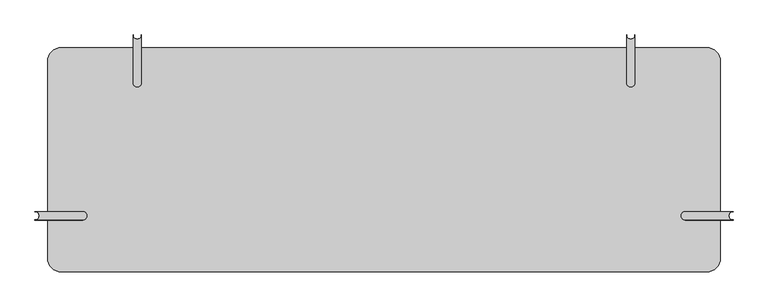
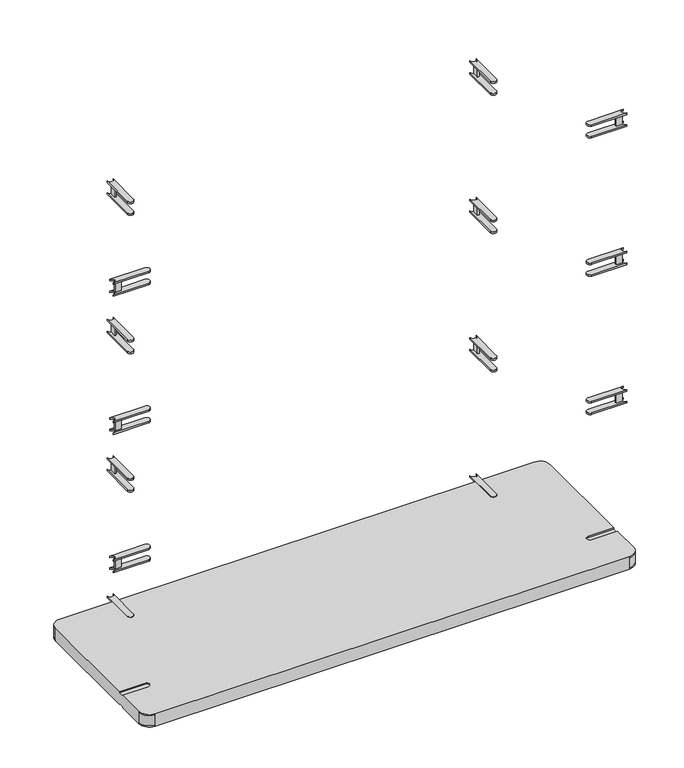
"""IFC4 building model written with IfcOpenShell, lengths in millimetres: furniture geometry, Shelving unit_Friendly : Shelving unit_Friendly."""

from ifc_helpers import new_model, si_unit, point, frame, frame_2d, origin, place, context, project, spatial, polyline, circle_curve, trimmed, segment, composite_curve, outline, extrude, source, transform, mapped, element, save
from ifc_brep_helpers import plane_surface, cylinder_surface, revolved_surface, advanced_brep


def furniture_0cf76a5a(model_context):
    return source(origin(), model_context, "Body", "SolidModel", [
        advanced_brep(
        [(-575.0, -430.0, 492.75), (-600.0, -405.0, 492.75), (-600.0, -337.5, 492.75), (-537.5, -337.5, 492.75), (-537.5, -322.5, 492.75), (-600.0, -322.5, 492.75), (-600.0, -55.0, 492.75), (-575.0, -30.0, 492.75), (-447.5, -30.0, 492.75), (-447.5, -92.5, 492.75), (-432.5, -92.5, 492.75), (-432.5, -30.0, 492.75), (432.5, -30.0, 492.75), (432.5, -92.5, 492.75), (447.5, -92.5, 492.75), (447.5, -30.0, 492.75), (575.0, -30.0, 492.75), (600.0, -55.0, 492.75), (600.0, -322.5, 492.75), (537.5, -322.5, 492.75), (537.5, -337.5, 492.75), (600.0, -337.5, 492.75), (600.0, -405.0, 492.75), (575.0, -430.0, 492.75), (575.0, -430.0, 495.75), (575.0, -430.0, 521.75), (575.0, -430.0, 524.75), (-575.0, -430.0, 524.75), (-575.0, -430.0, 521.75), (-575.0, -430.0, 495.75), (600.0, -405.0, 495.75), (600.0, -55.0, 495.75), (600.0, -55.0, 521.75), (600.0, -55.0, 524.75), (600.0, -322.5, 524.75), (600.0, -322.5, 521.75), (600.0, -337.5, 521.75), (600.0, -337.5, 524.75), (600.0, -405.0, 524.75), (600.0, -405.0, 521.75), (600.0, -337.5, 495.75), (600.0, -322.5, 495.75), (575.0, -30.0, 495.75), (-575.0, -30.0, 495.75), (-575.0, -30.0, 521.75), (-575.0, -30.0, 524.75), (-447.5, -30.0, 524.75), (-447.5, -30.0, 521.75), (-432.5, -30.0, 521.75), (-432.5, -30.0, 524.75), (432.5, -30.0, 524.75), (432.5, -30.0, 521.75), (447.5, -30.0, 521.75), (447.5, -30.0, 524.75), (575.0, -30.0, 524.75), (575.0, -30.0, 521.75), (447.5, -30.0, 495.75), (432.5, -30.0, 495.75), (-432.5, -30.0, 495.75), (-447.5, -30.0, 495.75), (-600.0, -55.0, 495.75), (-600.0, -405.0, 495.75), (-600.0, -405.0, 521.75), (-600.0, -405.0, 524.75), (-600.0, -337.5, 524.75), (-600.0, -337.5, 521.75), (-600.0, -322.5, 521.75), (-600.0, -322.5, 524.75), (-600.0, -55.0, 524.75), (-600.0, -55.0, 521.75), (-600.0, -322.5, 495.75), (-600.0, -337.5, 495.75), (-537.5, -322.5, 495.75), (-537.5, -337.5, 495.75), (537.5, -337.5, 495.75), (537.5, -322.5, 495.75), (447.5, -92.5, 495.75), (432.5, -92.5, 495.75), (-432.5, -92.5, 495.75), (-447.5, -92.5, 495.75), (537.5, -322.5, 521.75), (537.5, -337.5, 521.75), (-447.5, -92.5, 521.75), (-432.5, -92.5, 521.75), (432.5, -92.5, 521.75), (447.5, -92.5, 521.75), (-537.5, -337.5, 521.75), (-537.5, -322.5, 521.75), (537.5, -337.5, 524.75), (537.5, -322.5, 524.75), (447.5, -92.5, 524.75), (432.5, -92.5, 524.75), (-432.5, -92.5, 524.75), (-447.5, -92.5, 524.75), (-537.5, -322.5, 524.75), (-537.5, -337.5, 524.75)],
        [
            (0, 1, circle_curve(frame((-575.0, -405.0, 492.75), z_axis=(0.0, 0.0, -1.0), x_axis=(1.0, 0.0, 0.0)), 25.0)),
            (1, 2),
            (2, 3),
            (3, 4, circle_curve(frame((-537.5, -330.0, 492.75), z_axis=(0.0, 0.0, 1.0), x_axis=(1.0, 0.0, 0.0)), 7.5)),
            (4, 5),
            (5, 6),
            (6, 7, circle_curve(frame((-575.0, -55.0, 492.75), z_axis=(0.0, 0.0, -1.0), x_axis=(1.0, 0.0, 0.0)), 25.0)),
            (7, 8),
            (8, 9),
            (9, 10, circle_curve(frame((-440.0, -92.5, 492.75), z_axis=(0.0, 0.0, 1.0), x_axis=(1.0, 0.0, 0.0)), 7.5)),
            (10, 11),
            (11, 12),
            (12, 13),
            (13, 14, circle_curve(frame((440.0, -92.5, 492.75), z_axis=(0.0, 0.0, 1.0), x_axis=(1.0, 0.0, 0.0)), 7.5)),
            (14, 15),
            (15, 16),
            (16, 17, circle_curve(frame((575.0, -55.0, 492.75), z_axis=(0.0, 0.0, -1.0), x_axis=(1.0, 0.0, 0.0)), 25.0)),
            (17, 18),
            (18, 19),
            (19, 20, circle_curve(frame((537.5, -330.0, 492.75), z_axis=(0.0, 0.0, 1.0), x_axis=(1.0, 0.0, 0.0)), 7.5)),
            (20, 21),
            (21, 22),
            (22, 23, circle_curve(frame((575.0, -405.0, 492.75), z_axis=(0.0, 0.0, -1.0), x_axis=(1.0, 0.0, 0.0)), 25.0)),
            (23, 0),
            (23, 24),
            (24, 25),
            (25, 26),
            (26, 27),
            (27, 28),
            (28, 29),
            (29, 0),
            (22, 30),
            (30, 24, circle_curve(frame((575.0, -405.0, 495.75), z_axis=(0.0, 0.0, -1.0), x_axis=(1.0, 0.0, 0.0)), 25.0)),
            (17, 31),
            (31, 32),
            (32, 33),
            (33, 34),
            (34, 35),
            (35, 36),
            (36, 37),
            (37, 38),
            (38, 39),
            (39, 30),
            (21, 40),
            (40, 41),
            (41, 18),
            (16, 42),
            (42, 31, circle_curve(frame((575.0, -55.0, 495.75), z_axis=(0.0, 0.0, -1.0), x_axis=(1.0, 0.0, 0.0)), 25.0)),
            (7, 43),
            (43, 44),
            (44, 45),
            (45, 46),
            (46, 47),
            (47, 48),
            (48, 49),
            (49, 50),
            (50, 51),
            (51, 52),
            (52, 53),
            (53, 54),
            (54, 55),
            (55, 42),
            (15, 56),
            (56, 57),
            (57, 12),
            (11, 58),
            (58, 59),
            (59, 8),
            (6, 60),
            (60, 43, circle_curve(frame((-575.0, -55.0, 495.75), z_axis=(0.0, 0.0, -1.0), x_axis=(1.0, 0.0, 0.0)), 25.0)),
            (1, 61),
            (61, 62),
            (62, 63),
            (63, 64),
            (64, 65),
            (65, 66),
            (66, 67),
            (67, 68),
            (68, 69),
            (69, 60),
            (5, 70),
            (70, 71),
            (71, 2),
            (29, 61, circle_curve(frame((-575.0, -405.0, 495.75), z_axis=(0.0, 0.0, -1.0), x_axis=(1.0, 0.0, 0.0)), 25.0)),
            (4, 72),
            (72, 70),
            (71, 73),
            (73, 3),
            (73, 72, circle_curve(frame((-537.5, -330.0, 495.75), z_axis=(0.0, 0.0, 1.0), x_axis=(1.0, 0.0, 0.0)), 7.5)),
            (20, 74),
            (74, 40),
            (19, 75),
            (75, 74, circle_curve(frame((537.5, -330.0, 495.75), z_axis=(0.0, 0.0, 1.0), x_axis=(1.0, 0.0, 0.0)), 7.5)),
            (41, 75),
            (14, 76),
            (76, 56),
            (13, 77),
            (77, 76, circle_curve(frame((440.0, -92.5, 495.75), z_axis=(0.0, 0.0, 1.0), x_axis=(1.0, 0.0, 0.0)), 7.5)),
            (57, 77),
            (10, 78),
            (78, 58),
            (9, 79),
            (79, 78, circle_curve(frame((-440.0, -92.5, 495.75), z_axis=(0.0, 0.0, 1.0), x_axis=(1.0, 0.0, 0.0)), 7.5)),
            (59, 79),
            (35, 80),
            (80, 81, circle_curve(frame((537.5, -330.0, 521.75), z_axis=(0.0, 0.0, 1.0), x_axis=(1.0, 0.0, 0.0)), 7.5)),
            (81, 36),
            (47, 82),
            (82, 83, circle_curve(frame((-440.0, -92.5, 521.75), z_axis=(0.0, 0.0, 1.0), x_axis=(1.0, 0.0, 0.0)), 7.5)),
            (83, 48),
            (51, 84),
            (84, 85, circle_curve(frame((440.0, -92.5, 521.75), z_axis=(0.0, 0.0, 1.0), x_axis=(1.0, 0.0, 0.0)), 7.5)),
            (85, 52),
            (65, 86),
            (86, 87, circle_curve(frame((-537.5, -330.0, 521.75), z_axis=(0.0, 0.0, 1.0), x_axis=(1.0, 0.0, 0.0)), 7.5)),
            (87, 66),
            (28, 62, circle_curve(frame((-575.0, -405.0, 521.75), z_axis=(0.0, 0.0, -1.0), x_axis=(1.0, 0.0, 0.0)), 25.0)),
            (39, 25, circle_curve(frame((575.0, -405.0, 521.75), z_axis=(0.0, 0.0, -1.0), x_axis=(1.0, 0.0, 0.0)), 25.0)),
            (55, 32, circle_curve(frame((575.0, -55.0, 521.75), z_axis=(0.0, 0.0, -1.0), x_axis=(1.0, 0.0, 0.0)), 25.0)),
            (69, 44, circle_curve(frame((-575.0, -55.0, 521.75), z_axis=(0.0, 0.0, -1.0), x_axis=(1.0, 0.0, 0.0)), 25.0)),
            (26, 38, circle_curve(frame((575.0, -405.0, 524.75), z_axis=(0.0, 0.0, 1.0), x_axis=(1.0, 0.0, 0.0)), 25.0)),
            (37, 88),
            (88, 89, circle_curve(frame((537.5, -330.0, 524.75), z_axis=(0.0, 0.0, -1.0), x_axis=(1.0, 0.0, 0.0)), 7.5)),
            (89, 34),
            (33, 54, circle_curve(frame((575.0, -55.0, 524.75), z_axis=(0.0, 0.0, 1.0), x_axis=(1.0, 0.0, 0.0)), 25.0)),
            (53, 90),
            (90, 91, circle_curve(frame((440.0, -92.5, 524.75), z_axis=(0.0, 0.0, -1.0), x_axis=(1.0, 0.0, 0.0)), 7.5)),
            (91, 50),
            (49, 92),
            (92, 93, circle_curve(frame((-440.0, -92.5, 524.75), z_axis=(0.0, 0.0, -1.0), x_axis=(1.0, 0.0, 0.0)), 7.5)),
            (93, 46),
            (45, 68, circle_curve(frame((-575.0, -55.0, 524.75), z_axis=(0.0, 0.0, 1.0), x_axis=(1.0, 0.0, 0.0)), 25.0)),
            (67, 94),
            (94, 95, circle_curve(frame((-537.5, -330.0, 524.75), z_axis=(0.0, 0.0, -1.0), x_axis=(1.0, 0.0, 0.0)), 7.5)),
            (95, 64),
            (63, 27, circle_curve(frame((-575.0, -405.0, 524.75), z_axis=(0.0, 0.0, 1.0), x_axis=(1.0, 0.0, 0.0)), 25.0)),
            (87, 94),
            (95, 86),
            (81, 88),
            (80, 89),
            (85, 90),
            (84, 91),
            (83, 92),
            (82, 93),
        ],
        [
            plane_surface(frame((1453.4151526, -430.0, 492.75), z_axis=(0.0, 0.0, -1.0), x_axis=(-1.0, 0.0, 0.0))),
            plane_surface(frame((-575.0, -430.0, 495.75), z_axis=(0.0, -1.0, 0.0), x_axis=(0.0, 0.0, -1.0))),
            cylinder_surface(frame((575.0, -405.0, 492.75), z_axis=(0.0, 0.0, 1.0), x_axis=(1.0, 0.0, 0.0)), 25.0),
            plane_surface(frame((600.0, -322.5, 495.75), z_axis=(1.0, 0.0, 0.0), x_axis=(0.0, 0.0, -1.0))),
            cylinder_surface(frame((575.0, -55.0, 492.75), z_axis=(0.0, 0.0, 1.0), x_axis=(1.0, 0.0, 0.0)), 25.0),
            plane_surface(frame((575.0, -30.0, 495.75), z_axis=(0.0, 1.0, 0.0), x_axis=(0.0, 0.0, -1.0))),
            cylinder_surface(frame((-575.0, -55.0, 492.75), z_axis=(0.0, 0.0, 1.0), x_axis=(1.0, 0.0, 0.0)), 25.0),
            plane_surface(frame((-600.0, -55.0, 495.75), z_axis=(-1.0, 0.0, 0.0), x_axis=(0.0, 0.0, -1.0))),
            cylinder_surface(frame((-575.0, -405.0, 492.75), z_axis=(0.0, 0.0, 1.0), x_axis=(1.0, 0.0, 0.0)), 25.0),
            plane_surface(frame((-600.0, -322.5, 495.75), z_axis=(0.0, -1.0, 0.0), x_axis=(0.0, 0.0, -1.0))),
            plane_surface(frame((-537.5, -337.5, 495.75), z_axis=(0.0, 1.0, 0.0), x_axis=(0.0, 0.0, -1.0))),
            revolved_surface(polyline([(-530.0, -330.0, 492.75), (-530.0, -330.0, 495.75)]), (-537.5, -330.0, 492.75), (0.0, 0.0, -1.0)),
            plane_surface(frame((600.0, -337.5, 495.75), z_axis=(0.0, 1.0, 0.0), x_axis=(0.0, 0.0, -1.0))),
            revolved_surface(polyline([(545.0, -330.0, 492.75), (545.0, -330.0, 495.75)]), (537.5, -330.0, 492.75), (0.0, 0.0, -1.0)),
            plane_surface(frame((537.5, -322.5, 495.75), z_axis=(0.0, -1.0, 0.0), x_axis=(0.0, 0.0, -1.0))),
            plane_surface(frame((447.5, -30.0, 495.75), z_axis=(-1.0, 0.0, 0.0), x_axis=(0.0, 0.0, -1.0))),
            revolved_surface(polyline([(447.5, -92.5, 492.75), (447.5, -92.5, 495.75)]), (440.0, -92.5, 492.75), (0.0, 0.0, -1.0)),
            plane_surface(frame((432.5, -92.5, 495.75), z_axis=(1.0, 0.0, 0.0), x_axis=(0.0, 0.0, -1.0))),
            plane_surface(frame((-432.5, -30.0, 495.75), z_axis=(-1.0, 0.0, 0.0), x_axis=(0.0, 0.0, -1.0))),
            revolved_surface(polyline([(-432.5, -92.5, 492.75), (-432.5, -92.5, 495.75)]), (-440.0, -92.5, 492.75), (0.0, 0.0, -1.0)),
            plane_surface(frame((-447.5, -92.5, 495.75), z_axis=(1.0, 0.0, 0.0), x_axis=(0.0, 0.0, -1.0))),
            plane_surface(frame((-550.0, -405.0, 521.75), z_axis=(0.0, 0.0, 1.0), x_axis=(0.0, 1.0, 0.0))),
            plane_surface(frame((-550.0, -405.0, 495.75), z_axis=(0.0, 0.0, -1.0), x_axis=(0.0, -1.0, 0.0))),
            cylinder_surface(frame((-575.0, -405.0, 495.75), z_axis=(0.0, 0.0, 1.0), x_axis=(1.0, 0.0, 0.0)), 25.0),
            cylinder_surface(frame((575.0, -405.0, 495.75), z_axis=(0.0, 0.0, 1.0), x_axis=(1.0, 0.0, 0.0)), 25.0),
            cylinder_surface(frame((575.0, -55.0, 495.75), z_axis=(0.0, 0.0, 1.0), x_axis=(1.0, 0.0, 0.0)), 25.0),
            cylinder_surface(frame((-575.0, -55.0, 495.75), z_axis=(0.0, 0.0, 1.0), x_axis=(1.0, 0.0, 0.0)), 25.0),
            plane_surface(frame((1453.4151526, -430.0, 524.75), z_axis=(0.0, 0.0, 1.0), x_axis=(1.0, 0.0, 0.0))),
            cylinder_surface(frame((575.0, -405.0, 521.75), z_axis=(0.0, 0.0, 1.0), x_axis=(1.0, 0.0, 0.0)), 25.0),
            cylinder_surface(frame((575.0, -55.0, 521.75), z_axis=(0.0, 0.0, 1.0), x_axis=(1.0, 0.0, 0.0)), 25.0),
            cylinder_surface(frame((-575.0, -55.0, 521.75), z_axis=(0.0, 0.0, 1.0), x_axis=(1.0, 0.0, 0.0)), 25.0),
            cylinder_surface(frame((-575.0, -405.0, 521.75), z_axis=(0.0, 0.0, 1.0), x_axis=(1.0, 0.0, 0.0)), 25.0),
            plane_surface(frame((-600.0, -322.5, 524.75), z_axis=(0.0, -1.0, 0.0), x_axis=(0.0, 0.0, -1.0))),
            plane_surface(frame((-537.5, -337.5, 524.75), z_axis=(0.0, 1.0, 0.0), x_axis=(0.0, 0.0, -1.0))),
            revolved_surface(polyline([(-530.0, -330.0, 521.75), (-530.0, -330.0, 524.75)]), (-537.5, -330.0, 521.75), (0.0, 0.0, -1.0)),
            plane_surface(frame((600.0, -337.5, 524.75), z_axis=(0.0, 1.0, 0.0), x_axis=(0.0, 0.0, -1.0))),
            revolved_surface(polyline([(545.0, -330.0, 521.75), (545.0, -330.0, 524.75)]), (537.5, -330.0, 521.75), (0.0, 0.0, -1.0)),
            plane_surface(frame((537.5, -322.5, 524.75), z_axis=(0.0, -1.0, 0.0), x_axis=(0.0, 0.0, -1.0))),
            plane_surface(frame((447.5, -30.0, 524.75), z_axis=(-1.0, 0.0, 0.0), x_axis=(0.0, 0.0, -1.0))),
            revolved_surface(polyline([(447.5, -92.5, 521.75), (447.5, -92.5, 524.75)]), (440.0, -92.5, 521.75), (0.0, 0.0, -1.0)),
            plane_surface(frame((432.5, -92.5, 524.75), z_axis=(1.0, 0.0, 0.0), x_axis=(0.0, 0.0, -1.0))),
            plane_surface(frame((-432.5, -30.0, 524.75), z_axis=(-1.0, 0.0, 0.0), x_axis=(0.0, 0.0, -1.0))),
            revolved_surface(polyline([(-432.5, -92.5, 521.75), (-432.5, -92.5, 524.75)]), (-440.0, -92.5, 521.75), (0.0, 0.0, -1.0)),
            plane_surface(frame((-447.5, -92.5, 524.75), z_axis=(1.0, 0.0, 0.0), x_axis=(0.0, 0.0, -1.0))),
        ],
        [
            (0, [[1, 2, 3, 4, 5, 6, 7, 8, 9, 10, 11, 12, 13, 14, 15, 16, 17, 18, 19, 20, 21, 22, 23, 24]]),
            (1, [[-24, 25, 26, 27, 28, 29, 30, 31]]),
            (2, [[-23, 32, 33, -25]]),
            (3, [[-18, 34, 35, 36, 37, 38, 39, 40, 41, 42, 43, -32, -22, 44, 45, 46]]),
            (4, [[-17, 47, 48, -34]]),
            (5, [[-8, 49, 50, 51, 52, 53, 54, 55, 56, 57, 58, 59, 60, 61, 62, -47, -16, 63, 64, 65, -12, 66, 67, 68]]),
            (6, [[-7, 69, 70, -49]]),
            (7, [[-2, 71, 72, 73, 74, 75, 76, 77, 78, 79, 80, -69, -6, 81, 82, 83]]),
            (8, [[-1, -31, 84, -71]]),
            (9, [[-5, 85, 86, -81]]),
            (10, [[-3, -83, 87, 88]]),
            (11, [[-4, -88, 89, -85]]),
            (12, [[-21, 90, 91, -44]]),
            (13, [[-20, 92, 93, -90]]),
            (14, [[-19, -46, 94, -92]]),
            (15, [[-15, 95, 96, -63]]),
            (16, [[-14, 97, 98, -95]]),
            (17, [[-13, -65, 99, -97]]),
            (18, [[-11, 100, 101, -66]]),
            (19, [[-10, 102, 103, -100]]),
            (20, [[-9, -68, 104, -102]]),
            (21, [[-39, 105, 106, 107]]),
            (21, [[-54, 108, 109, 110]]),
            (21, [[-58, 111, 112, 113]]),
            (21, [[-76, 114, 115, 116]]),
            (22, [[-45, -91, -93, -94]]),
            (22, [[-64, -96, -98, -99]]),
            (22, [[-67, -101, -103, -104]]),
            (22, [[-82, -86, -89, -87]]),
            (23, [[-72, -84, -30, 117]]),
            (24, [[-26, -33, -43, 118]]),
            (25, [[-35, -48, -62, 119]]),
            (26, [[-50, -70, -80, 120]]),
            (27, [[-28, 121, -41, 122, 123, 124, -37, 125, -60, 126, 127, 128, -56, 129, 130, 131, -52, 132, -78, 133, 134, 135, -74, 136]]),
            (28, [[-121, -27, -118, -42]]),
            (29, [[-125, -36, -119, -61]]),
            (30, [[-132, -51, -120, -79]]),
            (31, [[-136, -73, -117, -29]]),
            (32, [[-133, -77, -116, 137]]),
            (33, [[-135, 138, -114, -75]]),
            (34, [[-134, -137, -115, -138]]),
            (35, [[-122, -40, -107, 139]]),
            (36, [[-123, -139, -106, 140]]),
            (37, [[-124, -140, -105, -38]]),
            (38, [[-126, -59, -113, 141]]),
            (39, [[-127, -141, -112, 142]]),
            (40, [[-128, -142, -111, -57]]),
            (41, [[-129, -55, -110, 143]]),
            (42, [[-130, -143, -109, 144]]),
            (43, [[-131, -144, -108, -53]]),
        ],
    ),
        extrude(outline(composite_curve([segment(trimmed(circle_curve(frame_2d((440.0, -7.5)), 7.5), [point((438.0, -14.7284161))], [point((442.0, -14.7284161))], True, "CARTESIAN"), True, "CONTINUOUS"), segment(polyline([(442.0, -14.7284161), (442.0, -30.0), (438.0, -30.0), (438.0, -14.7284161)]), True, "CONTINUOUS")], self_intersect=False)), frame((0.0, 0.0, 1560.0), z_axis=(0.0, 0.0, 1.0), x_axis=(1.0, 0.0, 0.0)), (0.0, 0.0, 1.0), 26.0),
        extrude(outline(composite_curve([segment(polyline([(432.5, -92.5), (432.5, -7.5)]), True, "CONTINUOUS"), segment(trimmed(circle_curve(frame_2d((440.0, -7.5)), 7.5), [point((432.5, -7.5))], [point((447.5, -7.5))], True, "CARTESIAN"), True, "CONTINUOUS"), segment(polyline([(447.5, -7.5), (447.5, -92.5)]), True, "CONTINUOUS"), segment(trimmed(circle_curve(frame_2d((440.0, -92.5)), 7.5), [point((447.5, -92.5))], [point((432.5, -92.5))], False, "CARTESIAN"), True, "CONTINUOUS")], self_intersect=False)), frame((0.0, 0.0, 1556.0), z_axis=(0.0, 0.0, 1.0), x_axis=(1.0, 0.0, 0.0)), (0.0, 0.0, 1.0), 4.0),
        advanced_brep(
        [(432.5, -92.5, 1590.0), (447.5, -92.5, 1590.0), (447.5, -7.5, 1590.0), (432.5, -7.5, 1590.0), (432.5, -92.5, 1586.0), (432.5, -7.5, 1586.0), (447.5, -7.5, 1586.0), (447.5, -92.5, 1586.0)],
        [
            (0, 1, circle_curve(frame((440.0, -92.5, 1590.0), z_axis=(0.0, 0.0, 1.0), x_axis=(0.0, -1.0, 0.0)), 7.5)),
            (1, 2),
            (2, 3, circle_curve(frame((440.0, -7.5, 1590.0), z_axis=(0.0, 0.0, -1.0), x_axis=(0.0, -1.0, 0.0)), 7.5)),
            (3, 0),
            (4, 5),
            (5, 6, circle_curve(frame((440.0, -7.5, 1586.0), z_axis=(0.0, 0.0, 1.0), x_axis=(0.0, -1.0, 0.0)), 7.5)),
            (6, 7),
            (7, 4, circle_curve(frame((440.0, -92.5, 1586.0), z_axis=(0.0, 0.0, -1.0), x_axis=(0.0, -1.0, 0.0)), 7.5)),
            (3, 5),
            (4, 0),
            (2, 6),
            (1, 7),
        ],
        [
            plane_surface(frame((440.0, -100.0, 1590.0), z_axis=(0.0, 0.0, 1.0), x_axis=(1.0, 0.0, 0.0))),
            plane_surface(frame((440.0, -100.0, 1586.0), z_axis=(0.0, 0.0, -1.0), x_axis=(-1.0, 0.0, 0.0))),
            plane_surface(frame((432.5, -7.5, 1590.0), z_axis=(-1.0, 0.0, 0.0), x_axis=(0.0, 0.0, -1.0))),
            revolved_surface(polyline([(440.0, -15.0, 1586.0), (440.0, -15.0, 1590.0)]), (440.0, -7.5, 1586.0), (0.0, 0.0, -1.0)),
            plane_surface(frame((447.5, -92.5, 1590.0), z_axis=(1.0, 0.0, 0.0), x_axis=(0.0, 0.0, -1.0))),
            cylinder_surface(frame((440.0, -92.5, 1586.0), z_axis=(0.0, 0.0, 1.0), x_axis=(0.0, -1.0, 0.0)), 7.5),
        ],
        [
            (0, [[1, 2, 3, 4]]),
            (1, [[5, 6, 7, 8]]),
            (2, [[-4, 9, -5, 10]]),
            (3, [[-3, 11, -6, -9]]),
            (4, [[-2, 12, -7, -11]]),
            (5, [[-1, -10, -8, -12]]),
        ],
    ),
        extrude(outline(composite_curve([segment(polyline([(-438.0, -14.7284161), (-438.0, -30.0), (-442.0, -30.0), (-442.0, -14.7284161)]), True, "CONTINUOUS"), segment(trimmed(circle_curve(frame_2d((-440.0, -7.5)), 7.5), [point((-442.0, -14.7284161))], [point((-438.0, -14.7284161))], True, "CARTESIAN"), True, "CONTINUOUS")], self_intersect=False)), frame((0.0, 0.0, 1560.0), z_axis=(0.0, 0.0, 1.0), x_axis=(1.0, 0.0, 0.0)), (0.0, 0.0, 1.0), 26.0),
        extrude(outline(composite_curve([segment(polyline([(-92.5, -432.5), (-7.5, -432.5)]), True, "CONTINUOUS"), segment(trimmed(circle_curve(frame_2d((-7.5, -440.0)), 7.5), [point((-7.5, -432.5))], [point((-7.5, -447.5))], True, "CARTESIAN"), True, "CONTINUOUS"), segment(polyline([(-7.5, -447.5), (-92.5, -447.5)]), True, "CONTINUOUS"), segment(trimmed(circle_curve(frame_2d((-92.5, -440.0)), 7.5), [point((-92.5, -447.5))], [point((-92.5, -432.5))], False, "CARTESIAN"), True, "CONTINUOUS")], self_intersect=False)), frame((0.0, 0.0, 1560.0), z_axis=(0.0, 0.0, -1.0), x_axis=(0.0, 1.0, 0.0)), (0.0, 0.0, 1.0), 4.0),
        advanced_brep(
        [(-432.5, -92.5, 1590.0), (-432.5, -7.5, 1590.0), (-447.5, -7.5, 1590.0), (-447.5, -92.5, 1590.0), (-432.5, -92.5, 1586.0), (-447.5, -92.5, 1586.0), (-447.5, -7.5, 1586.0), (-432.5, -7.5, 1586.0)],
        [
            (0, 1),
            (1, 2, circle_curve(frame((-440.0, -7.5, 1590.0), z_axis=(0.0, 0.0, -1.0), x_axis=(0.0, 1.0, 0.0)), 7.5)),
            (2, 3),
            (3, 0, circle_curve(frame((-440.0, -92.5, 1590.0), z_axis=(0.0, 0.0, 1.0), x_axis=(0.0, 1.0, 0.0)), 7.5)),
            (4, 5, circle_curve(frame((-440.0, -92.5, 1586.0), z_axis=(0.0, 0.0, -1.0), x_axis=(0.0, 1.0, 0.0)), 7.5)),
            (5, 6),
            (6, 7, circle_curve(frame((-440.0, -7.5, 1586.0), z_axis=(0.0, 0.0, 1.0), x_axis=(0.0, 1.0, 0.0)), 7.5)),
            (7, 4),
            (0, 4),
            (7, 1),
            (6, 2),
            (5, 3),
        ],
        [
            plane_surface(frame((-432.5, -30.0, 1590.0), z_axis=(0.0, 0.0, 1.0), x_axis=(0.0, 1.0, 0.0))),
            plane_surface(frame((-432.5, -30.0, 1586.0), z_axis=(0.0, 0.0, -1.0), x_axis=(0.0, -1.0, 0.0))),
            plane_surface(frame((-432.5, -92.5, 1590.0), z_axis=(1.0, 0.0, 0.0), x_axis=(0.0, 0.0, -1.0))),
            revolved_surface(polyline([(-440.0, 0.0, 1586.0), (-440.0, 0.0, 1590.0)]), (-440.0, -7.5, 1586.0), (0.0, 0.0, -1.0)),
            plane_surface(frame((-447.5, -7.5, 1590.0), z_axis=(-1.0, 0.0, 0.0), x_axis=(0.0, 0.0, -1.0))),
            cylinder_surface(frame((-440.0, -92.5, 1586.0), z_axis=(0.0, 0.0, 1.0), x_axis=(0.0, 1.0, 0.0)), 7.5),
        ],
        [
            (0, [[1, 2, 3, 4]]),
            (1, [[5, 6, 7, 8]]),
            (2, [[-1, 9, -8, 10]]),
            (3, [[-2, -10, -7, 11]]),
            (4, [[-3, -11, -6, 12]]),
            (5, [[-4, -12, -5, -9]]),
        ],
    ),
        extrude(outline(composite_curve([segment(trimmed(circle_curve(frame_2d((622.5, -330.0)), 7.5), [point((615.2715839, -328.0))], [point((615.2715839, -332.0))], True, "CARTESIAN"), True, "CONTINUOUS"), segment(polyline([(615.2715839, -332.0), (600.0, -332.0), (600.0, -328.0), (615.2715839, -328.0)]), True, "CONTINUOUS")], self_intersect=False)), frame((0.0, 0.0, 1560.0), z_axis=(0.0, 0.0, 1.0), x_axis=(1.0, 0.0, 0.0)), (0.0, 0.0, 1.0), 26.0),
        extrude(outline(composite_curve([segment(polyline([(537.5, -322.5), (622.5, -322.5)]), True, "CONTINUOUS"), segment(trimmed(circle_curve(frame_2d((622.5, -330.0)), 7.5), [point((622.5, -322.5))], [point((622.5, -337.5))], True, "CARTESIAN"), True, "CONTINUOUS"), segment(polyline([(622.5, -337.5), (537.5, -337.5)]), True, "CONTINUOUS"), segment(trimmed(circle_curve(frame_2d((537.5, -330.0)), 7.5), [point((537.5, -337.5))], [point((537.5, -322.5))], False, "CARTESIAN"), True, "CONTINUOUS")], self_intersect=False)), frame((0.0, 0.0, 1556.0), z_axis=(0.0, 0.0, 1.0), x_axis=(1.0, 0.0, 0.0)), (0.0, 0.0, 1.0), 4.0),
        extrude(outline(composite_curve([segment(polyline([(537.5, -322.5), (622.5, -322.5)]), True, "CONTINUOUS"), segment(trimmed(circle_curve(frame_2d((622.5, -330.0)), 7.5), [point((622.5, -322.5))], [point((622.5, -337.5))], True, "CARTESIAN"), True, "CONTINUOUS"), segment(polyline([(622.5, -337.5), (537.5, -337.5)]), True, "CONTINUOUS"), segment(trimmed(circle_curve(frame_2d((537.5, -330.0)), 7.5), [point((537.5, -337.5))], [point((537.5, -322.5))], False, "CARTESIAN"), True, "CONTINUOUS")], self_intersect=False)), frame((0.0, 0.0, 1586.0), z_axis=(0.0, 0.0, 1.0), x_axis=(1.0, 0.0, 0.0)), (0.0, 0.0, 1.0), 4.0),
        extrude(outline(composite_curve([segment(polyline([(-615.2715839, -328.0), (-600.0, -328.0), (-600.0, -332.0), (-615.2715839, -332.0)]), True, "CONTINUOUS"), segment(trimmed(circle_curve(frame_2d((-622.5, -330.0)), 7.5), [point((-615.2715839, -332.0))], [point((-615.2715839, -328.0))], True, "CARTESIAN"), True, "CONTINUOUS")], self_intersect=False)), frame((0.0, 0.0, 1560.0), z_axis=(0.0, 0.0, 1.0), x_axis=(1.0, 0.0, 0.0)), (0.0, 0.0, 1.0), 26.0),
        extrude(outline(composite_curve([segment(polyline([(-322.5, -537.5), (-322.5, -622.5)]), True, "CONTINUOUS"), segment(trimmed(circle_curve(frame_2d((-330.0, -622.5)), 7.5), [point((-322.5, -622.5))], [point((-337.5, -622.5))], True, "CARTESIAN"), True, "CONTINUOUS"), segment(polyline([(-337.5, -622.5), (-337.5, -537.5)]), True, "CONTINUOUS"), segment(trimmed(circle_curve(frame_2d((-330.0, -537.5)), 7.5), [point((-337.5, -537.5))], [point((-322.5, -537.5))], False, "CARTESIAN"), True, "CONTINUOUS")], self_intersect=False)), frame((0.0, 0.0, 1560.0), z_axis=(0.0, 0.0, -1.0), x_axis=(0.0, 1.0, 0.0)), (0.0, 0.0, 1.0), 4.0),
        extrude(outline(composite_curve([segment(polyline([(-322.5, -537.5), (-322.5, -622.5)]), True, "CONTINUOUS"), segment(trimmed(circle_curve(frame_2d((-330.0, -622.5)), 7.5), [point((-322.5, -622.5))], [point((-337.5, -622.5))], True, "CARTESIAN"), True, "CONTINUOUS"), segment(polyline([(-337.5, -622.5), (-337.5, -537.5)]), True, "CONTINUOUS"), segment(trimmed(circle_curve(frame_2d((-330.0, -537.5)), 7.5), [point((-337.5, -537.5))], [point((-322.5, -537.5))], False, "CARTESIAN"), True, "CONTINUOUS")], self_intersect=False)), frame((0.0, 0.0, 1590.0), z_axis=(0.0, 0.0, -1.0), x_axis=(0.0, 1.0, 0.0)), (0.0, 0.0, 1.0), 4.0),
        extrude(outline(composite_curve([segment(trimmed(circle_curve(frame_2d((440.0, -7.5)), 7.5), [point((438.0, -14.7284161))], [point((442.0, -14.7284161))], True, "CARTESIAN"), True, "CONTINUOUS"), segment(polyline([(442.0, -14.7284161), (442.0, -30.0), (438.0, -30.0), (438.0, -14.7284161)]), True, "CONTINUOUS")], self_intersect=False)), frame((0.0, 0.0, 1205.25), z_axis=(0.0, 0.0, 1.0), x_axis=(1.0, 0.0, 0.0)), (0.0, 0.0, 1.0), 26.0),
        extrude(outline(composite_curve([segment(polyline([(432.5, -92.5), (432.5, -7.5)]), True, "CONTINUOUS"), segment(trimmed(circle_curve(frame_2d((440.0, -7.5)), 7.5), [point((432.5, -7.5))], [point((447.5, -7.5))], True, "CARTESIAN"), True, "CONTINUOUS"), segment(polyline([(447.5, -7.5), (447.5, -92.5)]), True, "CONTINUOUS"), segment(trimmed(circle_curve(frame_2d((440.0, -92.5)), 7.5), [point((447.5, -92.5))], [point((432.5, -92.5))], False, "CARTESIAN"), True, "CONTINUOUS")], self_intersect=False)), frame((0.0, 0.0, 1201.25), z_axis=(0.0, 0.0, 1.0), x_axis=(1.0, 0.0, 0.0)), (0.0, 0.0, 1.0), 4.0),
        extrude(outline(composite_curve([segment(polyline([(432.5, -92.5), (432.5, -7.5)]), True, "CONTINUOUS"), segment(trimmed(circle_curve(frame_2d((440.0, -7.5)), 7.5), [point((432.5, -7.5))], [point((447.5, -7.5))], True, "CARTESIAN"), True, "CONTINUOUS"), segment(polyline([(447.5, -7.5), (447.5, -92.5)]), True, "CONTINUOUS"), segment(trimmed(circle_curve(frame_2d((440.0, -92.5)), 7.5), [point((447.5, -92.5))], [point((432.5, -92.5))], False, "CARTESIAN"), True, "CONTINUOUS")], self_intersect=False)), frame((0.0, 0.0, 1231.25), z_axis=(0.0, 0.0, 1.0), x_axis=(1.0, 0.0, 0.0)), (0.0, 0.0, 1.0), 4.0),
        extrude(outline(composite_curve([segment(polyline([(-438.0, -14.7284161), (-438.0, -30.0), (-442.0, -30.0), (-442.0, -14.7284161)]), True, "CONTINUOUS"), segment(trimmed(circle_curve(frame_2d((-440.0, -7.5)), 7.5), [point((-442.0, -14.7284161))], [point((-438.0, -14.7284161))], True, "CARTESIAN"), True, "CONTINUOUS")], self_intersect=False)), frame((0.0, 0.0, 1205.25), z_axis=(0.0, 0.0, 1.0), x_axis=(1.0, 0.0, 0.0)), (0.0, 0.0, 1.0), 26.0),
        extrude(outline(composite_curve([segment(polyline([(-92.5, -432.5), (-7.5, -432.5)]), True, "CONTINUOUS"), segment(trimmed(circle_curve(frame_2d((-7.5, -440.0)), 7.5), [point((-7.5, -432.5))], [point((-7.5, -447.5))], True, "CARTESIAN"), True, "CONTINUOUS"), segment(polyline([(-7.5, -447.5), (-92.5, -447.5)]), True, "CONTINUOUS"), segment(trimmed(circle_curve(frame_2d((-92.5, -440.0)), 7.5), [point((-92.5, -447.5))], [point((-92.5, -432.5))], False, "CARTESIAN"), True, "CONTINUOUS")], self_intersect=False)), frame((0.0, 0.0, 1205.25), z_axis=(0.0, 0.0, -1.0), x_axis=(0.0, 1.0, 0.0)), (0.0, 0.0, 1.0), 4.0),
        extrude(outline(composite_curve([segment(polyline([(-92.5, -432.5), (-7.5, -432.5)]), True, "CONTINUOUS"), segment(trimmed(circle_curve(frame_2d((-7.5, -440.0)), 7.5), [point((-7.5, -432.5))], [point((-7.5, -447.5))], True, "CARTESIAN"), True, "CONTINUOUS"), segment(polyline([(-7.5, -447.5), (-92.5, -447.5)]), True, "CONTINUOUS"), segment(trimmed(circle_curve(frame_2d((-92.5, -440.0)), 7.5), [point((-92.5, -447.5))], [point((-92.5, -432.5))], False, "CARTESIAN"), True, "CONTINUOUS")], self_intersect=False)), frame((0.0, 0.0, 1235.25), z_axis=(0.0, 0.0, -1.0), x_axis=(0.0, 1.0, 0.0)), (0.0, 0.0, 1.0), 4.0),
        extrude(outline(composite_curve([segment(trimmed(circle_curve(frame_2d((622.5, -330.0)), 7.5), [point((615.2715839, -328.0))], [point((615.2715839, -332.0))], True, "CARTESIAN"), True, "CONTINUOUS"), segment(polyline([(615.2715839, -332.0), (600.0, -332.0), (600.0, -328.0), (615.2715839, -328.0)]), True, "CONTINUOUS")], self_intersect=False)), frame((0.0, 0.0, 1205.25), z_axis=(0.0, 0.0, 1.0), x_axis=(1.0, 0.0, 0.0)), (0.0, 0.0, 1.0), 26.0),
        extrude(outline(composite_curve([segment(polyline([(537.5, -322.5), (622.5, -322.5)]), True, "CONTINUOUS"), segment(trimmed(circle_curve(frame_2d((622.5, -330.0)), 7.5), [point((622.5, -322.5))], [point((622.5, -337.5))], True, "CARTESIAN"), True, "CONTINUOUS"), segment(polyline([(622.5, -337.5), (537.5, -337.5)]), True, "CONTINUOUS"), segment(trimmed(circle_curve(frame_2d((537.5, -330.0)), 7.5), [point((537.5, -337.5))], [point((537.5, -322.5))], False, "CARTESIAN"), True, "CONTINUOUS")], self_intersect=False)), frame((0.0, 0.0, 1201.25), z_axis=(0.0, 0.0, 1.0), x_axis=(1.0, 0.0, 0.0)), (0.0, 0.0, 1.0), 4.0),
        extrude(outline(composite_curve([segment(polyline([(537.5, -322.5), (622.5, -322.5)]), True, "CONTINUOUS"), segment(trimmed(circle_curve(frame_2d((622.5, -330.0)), 7.5), [point((622.5, -322.5))], [point((622.5, -337.5))], True, "CARTESIAN"), True, "CONTINUOUS"), segment(polyline([(622.5, -337.5), (537.5, -337.5)]), True, "CONTINUOUS"), segment(trimmed(circle_curve(frame_2d((537.5, -330.0)), 7.5), [point((537.5, -337.5))], [point((537.5, -322.5))], False, "CARTESIAN"), True, "CONTINUOUS")], self_intersect=False)), frame((0.0, 0.0, 1231.25), z_axis=(0.0, 0.0, 1.0), x_axis=(1.0, 0.0, 0.0)), (0.0, 0.0, 1.0), 4.0),
        extrude(outline(composite_curve([segment(polyline([(-615.2715839, -328.0), (-600.0, -328.0), (-600.0, -332.0), (-615.2715839, -332.0)]), True, "CONTINUOUS"), segment(trimmed(circle_curve(frame_2d((-622.5, -330.0)), 7.5), [point((-615.2715839, -332.0))], [point((-615.2715839, -328.0))], True, "CARTESIAN"), True, "CONTINUOUS")], self_intersect=False)), frame((0.0, 0.0, 1205.25), z_axis=(0.0, 0.0, 1.0), x_axis=(1.0, 0.0, 0.0)), (0.0, 0.0, 1.0), 26.0),
        extrude(outline(composite_curve([segment(polyline([(-322.5, -537.5), (-322.5, -622.5)]), True, "CONTINUOUS"), segment(trimmed(circle_curve(frame_2d((-330.0, -622.5)), 7.5), [point((-322.5, -622.5))], [point((-337.5, -622.5))], True, "CARTESIAN"), True, "CONTINUOUS"), segment(polyline([(-337.5, -622.5), (-337.5, -537.5)]), True, "CONTINUOUS"), segment(trimmed(circle_curve(frame_2d((-330.0, -537.5)), 7.5), [point((-337.5, -537.5))], [point((-322.5, -537.5))], False, "CARTESIAN"), True, "CONTINUOUS")], self_intersect=False)), frame((0.0, 0.0, 1205.25), z_axis=(0.0, 0.0, -1.0), x_axis=(0.0, 1.0, 0.0)), (0.0, 0.0, 1.0), 4.0),
        extrude(outline(composite_curve([segment(polyline([(-322.5, -537.5), (-322.5, -622.5)]), True, "CONTINUOUS"), segment(trimmed(circle_curve(frame_2d((-330.0, -622.5)), 7.5), [point((-322.5, -622.5))], [point((-337.5, -622.5))], True, "CARTESIAN"), True, "CONTINUOUS"), segment(polyline([(-337.5, -622.5), (-337.5, -537.5)]), True, "CONTINUOUS"), segment(trimmed(circle_curve(frame_2d((-330.0, -537.5)), 7.5), [point((-337.5, -537.5))], [point((-322.5, -537.5))], False, "CARTESIAN"), True, "CONTINUOUS")], self_intersect=False)), frame((0.0, 0.0, 1235.25), z_axis=(0.0, 0.0, -1.0), x_axis=(0.0, 1.0, 0.0)), (0.0, 0.0, 1.0), 4.0),
        extrude(outline(composite_curve([segment(trimmed(circle_curve(frame_2d((440.0, -7.5)), 7.5), [point((438.0, -14.7284161))], [point((442.0, -14.7284161))], True, "CARTESIAN"), True, "CONTINUOUS"), segment(polyline([(442.0, -14.7284161), (442.0, -30.0), (438.0, -30.0), (438.0, -14.7284161)]), True, "CONTINUOUS")], self_intersect=False)), frame((0.0, 0.0, 850.5), z_axis=(0.0, 0.0, 1.0), x_axis=(1.0, 0.0, 0.0)), (0.0, 0.0, 1.0), 26.0),
        extrude(outline(composite_curve([segment(polyline([(432.5, -92.5), (432.5, -7.5)]), True, "CONTINUOUS"), segment(trimmed(circle_curve(frame_2d((440.0, -7.5)), 7.5), [point((432.5, -7.5))], [point((447.5, -7.5))], True, "CARTESIAN"), True, "CONTINUOUS"), segment(polyline([(447.5, -7.5), (447.5, -92.5)]), True, "CONTINUOUS"), segment(trimmed(circle_curve(frame_2d((440.0, -92.5)), 7.5), [point((447.5, -92.5))], [point((432.5, -92.5))], False, "CARTESIAN"), True, "CONTINUOUS")], self_intersect=False)), frame((0.0, 0.0, 846.5), z_axis=(0.0, 0.0, 1.0), x_axis=(1.0, 0.0, 0.0)), (0.0, 0.0, 1.0), 4.0),
        extrude(outline(composite_curve([segment(polyline([(432.5, -92.5), (432.5, -7.5)]), True, "CONTINUOUS"), segment(trimmed(circle_curve(frame_2d((440.0, -7.5)), 7.5), [point((432.5, -7.5))], [point((447.5, -7.5))], True, "CARTESIAN"), True, "CONTINUOUS"), segment(polyline([(447.5, -7.5), (447.5, -92.5)]), True, "CONTINUOUS"), segment(trimmed(circle_curve(frame_2d((440.0, -92.5)), 7.5), [point((447.5, -92.5))], [point((432.5, -92.5))], False, "CARTESIAN"), True, "CONTINUOUS")], self_intersect=False)), frame((0.0, 0.0, 876.5), z_axis=(0.0, 0.0, 1.0), x_axis=(1.0, 0.0, 0.0)), (0.0, 0.0, 1.0), 4.0),
        extrude(outline(composite_curve([segment(polyline([(-438.0, -14.7284161), (-438.0, -30.0), (-442.0, -30.0), (-442.0, -14.7284161)]), True, "CONTINUOUS"), segment(trimmed(circle_curve(frame_2d((-440.0, -7.5)), 7.5), [point((-442.0, -14.7284161))], [point((-438.0, -14.7284161))], True, "CARTESIAN"), True, "CONTINUOUS")], self_intersect=False)), frame((0.0, 0.0, 850.5), z_axis=(0.0, 0.0, 1.0), x_axis=(1.0, 0.0, 0.0)), (0.0, 0.0, 1.0), 26.0),
        extrude(outline(composite_curve([segment(polyline([(-92.5, -432.5), (-7.5, -432.5)]), True, "CONTINUOUS"), segment(trimmed(circle_curve(frame_2d((-7.5, -440.0)), 7.5), [point((-7.5, -432.5))], [point((-7.5, -447.5))], True, "CARTESIAN"), True, "CONTINUOUS"), segment(polyline([(-7.5, -447.5), (-92.5, -447.5)]), True, "CONTINUOUS"), segment(trimmed(circle_curve(frame_2d((-92.5, -440.0)), 7.5), [point((-92.5, -447.5))], [point((-92.5, -432.5))], False, "CARTESIAN"), True, "CONTINUOUS")], self_intersect=False)), frame((0.0, 0.0, 850.5), z_axis=(0.0, 0.0, -1.0), x_axis=(0.0, 1.0, 0.0)), (0.0, 0.0, 1.0), 4.0),
        extrude(outline(composite_curve([segment(polyline([(-92.5, -432.5), (-7.5, -432.5)]), True, "CONTINUOUS"), segment(trimmed(circle_curve(frame_2d((-7.5, -440.0)), 7.5), [point((-7.5, -432.5))], [point((-7.5, -447.5))], True, "CARTESIAN"), True, "CONTINUOUS"), segment(polyline([(-7.5, -447.5), (-92.5, -447.5)]), True, "CONTINUOUS"), segment(trimmed(circle_curve(frame_2d((-92.5, -440.0)), 7.5), [point((-92.5, -447.5))], [point((-92.5, -432.5))], False, "CARTESIAN"), True, "CONTINUOUS")], self_intersect=False)), frame((0.0, 0.0, 880.5), z_axis=(0.0, 0.0, -1.0), x_axis=(0.0, 1.0, 0.0)), (0.0, 0.0, 1.0), 4.0),
        extrude(outline(composite_curve([segment(trimmed(circle_curve(frame_2d((622.5, -330.0)), 7.5), [point((615.2715839, -328.0))], [point((615.2715839, -332.0))], True, "CARTESIAN"), True, "CONTINUOUS"), segment(polyline([(615.2715839, -332.0), (600.0, -332.0), (600.0, -328.0), (615.2715839, -328.0)]), True, "CONTINUOUS")], self_intersect=False)), frame((0.0, 0.0, 850.5), z_axis=(0.0, 0.0, 1.0), x_axis=(1.0, 0.0, 0.0)), (0.0, 0.0, 1.0), 26.0),
        extrude(outline(composite_curve([segment(polyline([(537.5, -322.5), (622.5, -322.5)]), True, "CONTINUOUS"), segment(trimmed(circle_curve(frame_2d((622.5, -330.0)), 7.5), [point((622.5, -322.5))], [point((622.5, -337.5))], True, "CARTESIAN"), True, "CONTINUOUS"), segment(polyline([(622.5, -337.5), (537.5, -337.5)]), True, "CONTINUOUS"), segment(trimmed(circle_curve(frame_2d((537.5, -330.0)), 7.5), [point((537.5, -337.5))], [point((537.5, -322.5))], False, "CARTESIAN"), True, "CONTINUOUS")], self_intersect=False)), frame((0.0, 0.0, 846.5), z_axis=(0.0, 0.0, 1.0), x_axis=(1.0, 0.0, 0.0)), (0.0, 0.0, 1.0), 4.0),
        extrude(outline(composite_curve([segment(polyline([(537.5, -322.5), (622.5, -322.5)]), True, "CONTINUOUS"), segment(trimmed(circle_curve(frame_2d((622.5, -330.0)), 7.5), [point((622.5, -322.5))], [point((622.5, -337.5))], True, "CARTESIAN"), True, "CONTINUOUS"), segment(polyline([(622.5, -337.5), (537.5, -337.5)]), True, "CONTINUOUS"), segment(trimmed(circle_curve(frame_2d((537.5, -330.0)), 7.5), [point((537.5, -337.5))], [point((537.5, -322.5))], False, "CARTESIAN"), True, "CONTINUOUS")], self_intersect=False)), frame((0.0, 0.0, 876.5), z_axis=(0.0, 0.0, 1.0), x_axis=(1.0, 0.0, 0.0)), (0.0, 0.0, 1.0), 4.0),
        extrude(outline(composite_curve([segment(polyline([(-615.2715839, -328.0), (-600.0, -328.0), (-600.0, -332.0), (-615.2715839, -332.0)]), True, "CONTINUOUS"), segment(trimmed(circle_curve(frame_2d((-622.5, -330.0)), 7.5), [point((-615.2715839, -332.0))], [point((-615.2715839, -328.0))], True, "CARTESIAN"), True, "CONTINUOUS")], self_intersect=False)), frame((0.0, 0.0, 850.5), z_axis=(0.0, 0.0, 1.0), x_axis=(1.0, 0.0, 0.0)), (0.0, 0.0, 1.0), 26.0),
        extrude(outline(composite_curve([segment(polyline([(-322.5, -537.5), (-322.5, -622.5)]), True, "CONTINUOUS"), segment(trimmed(circle_curve(frame_2d((-330.0, -622.5)), 7.5), [point((-322.5, -622.5))], [point((-337.5, -622.5))], True, "CARTESIAN"), True, "CONTINUOUS"), segment(polyline([(-337.5, -622.5), (-337.5, -537.5)]), True, "CONTINUOUS"), segment(trimmed(circle_curve(frame_2d((-330.0, -537.5)), 7.5), [point((-337.5, -537.5))], [point((-322.5, -537.5))], False, "CARTESIAN"), True, "CONTINUOUS")], self_intersect=False)), frame((0.0, 0.0, 850.5), z_axis=(0.0, 0.0, -1.0), x_axis=(0.0, 1.0, 0.0)), (0.0, 0.0, 1.0), 4.0),
        extrude(outline(composite_curve([segment(polyline([(-322.5, -537.5), (-322.5, -622.5)]), True, "CONTINUOUS"), segment(trimmed(circle_curve(frame_2d((-330.0, -622.5)), 7.5), [point((-322.5, -622.5))], [point((-337.5, -622.5))], True, "CARTESIAN"), True, "CONTINUOUS"), segment(polyline([(-337.5, -622.5), (-337.5, -537.5)]), True, "CONTINUOUS"), segment(trimmed(circle_curve(frame_2d((-330.0, -537.5)), 7.5), [point((-337.5, -537.5))], [point((-322.5, -537.5))], False, "CARTESIAN"), True, "CONTINUOUS")], self_intersect=False)), frame((0.0, 0.0, 880.5), z_axis=(0.0, 0.0, -1.0), x_axis=(0.0, 1.0, 0.0)), (0.0, 0.0, 1.0), 4.0),
        extrude(outline(composite_curve([segment(trimmed(circle_curve(frame_2d((440.0, -7.5)), 7.5), [point((438.0, -14.7284161))], [point((442.0, -14.7284161))], True, "CARTESIAN"), True, "CONTINUOUS"), segment(polyline([(442.0, -14.7284161), (442.0, -30.0), (438.0, -30.0), (438.0, -14.7284161)]), True, "CONTINUOUS")], self_intersect=False)), frame((0.0, 0.0, 495.75), z_axis=(0.0, 0.0, 1.0), x_axis=(1.0, 0.0, 0.0)), (0.0, 0.0, 1.0), 26.0),
        advanced_brep(
        [(432.5, -92.5, 495.75), (447.5, -92.5, 495.75), (447.5, -7.5, 495.75), (432.5, -7.5, 495.75), (432.5, -92.5, 491.75), (432.5, -7.5, 491.75), (447.5, -7.5, 491.75), (447.5, -92.5, 491.75)],
        [
            (0, 1, circle_curve(frame((440.0, -92.5, 495.75), z_axis=(0.0, 0.0, 1.0), x_axis=(0.0, 1.0, 0.0)), 7.5)),
            (1, 2),
            (2, 3, circle_curve(frame((440.0, -7.5, 495.75), z_axis=(0.0, 0.0, -1.0), x_axis=(0.0, 1.0, 0.0)), 7.5)),
            (3, 0),
            (4, 5),
            (5, 6, circle_curve(frame((440.0, -7.5, 491.75), z_axis=(0.0, 0.0, 1.0), x_axis=(0.0, 1.0, 0.0)), 7.5)),
            (6, 7),
            (7, 4, circle_curve(frame((440.0, -92.5, 491.75), z_axis=(0.0, 0.0, -1.0), x_axis=(0.0, 1.0, 0.0)), 7.5)),
            (3, 5),
            (4, 0),
            (2, 6),
            (1, 7),
        ],
        [
            plane_surface(frame((440.0, -85.0, 495.75), z_axis=(0.0, 0.0, 1.0), x_axis=(-1.0, 0.0, 0.0))),
            plane_surface(frame((440.0, -85.0, 491.75), z_axis=(0.0, 0.0, -1.0), x_axis=(1.0, 0.0, 0.0))),
            plane_surface(frame((432.5, -7.5, 495.75), z_axis=(-1.0, 0.0, 0.0), x_axis=(0.0, 0.0, -1.0))),
            revolved_surface(polyline([(440.0, 0.0, 491.75), (440.0, 0.0, 495.75)]), (440.0, -7.5, 491.75), (0.0, 0.0, -1.0)),
            plane_surface(frame((447.5, -92.5, 495.75), z_axis=(1.0, 0.0, 0.0), x_axis=(0.0, 0.0, -1.0))),
            cylinder_surface(frame((440.0, -92.5, 491.75), z_axis=(0.0, 0.0, 1.0), x_axis=(0.0, 1.0, 0.0)), 7.5),
        ],
        [
            (0, [[1, 2, 3, 4]]),
            (1, [[5, 6, 7, 8]]),
            (2, [[-4, 9, -5, 10]]),
            (3, [[-3, 11, -6, -9]]),
            (4, [[-2, 12, -7, -11]]),
            (5, [[-1, -10, -8, -12]]),
        ],
    ),
        extrude(outline(composite_curve([segment(polyline([(432.5, -92.5), (432.5, -7.5)]), True, "CONTINUOUS"), segment(trimmed(circle_curve(frame_2d((440.0, -7.5)), 7.5), [point((432.5, -7.5))], [point((447.5, -7.5))], True, "CARTESIAN"), True, "CONTINUOUS"), segment(polyline([(447.5, -7.5), (447.5, -92.5)]), True, "CONTINUOUS"), segment(trimmed(circle_curve(frame_2d((440.0, -92.5)), 7.5), [point((447.5, -92.5))], [point((432.5, -92.5))], False, "CARTESIAN"), True, "CONTINUOUS")], self_intersect=False)), frame((0.0, 0.0, 521.75), z_axis=(0.0, 0.0, 1.0), x_axis=(1.0, 0.0, 0.0)), (0.0, 0.0, 1.0), 4.0),
        extrude(outline(composite_curve([segment(polyline([(-438.0, -14.7284161), (-438.0, -30.0), (-442.0, -30.0), (-442.0, -14.7284161)]), True, "CONTINUOUS"), segment(trimmed(circle_curve(frame_2d((-440.0, -7.5)), 7.5), [point((-442.0, -14.7284161))], [point((-438.0, -14.7284161))], True, "CARTESIAN"), True, "CONTINUOUS")], self_intersect=False)), frame((0.0, 0.0, 495.75), z_axis=(0.0, 0.0, 1.0), x_axis=(1.0, 0.0, 0.0)), (0.0, 0.0, 1.0), 26.0),
        extrude(outline(composite_curve([segment(polyline([(-92.5, -432.5), (-7.5, -432.5)]), True, "CONTINUOUS"), segment(trimmed(circle_curve(frame_2d((-7.5, -440.0)), 7.5), [point((-7.5, -432.5))], [point((-7.5, -447.5))], True, "CARTESIAN"), True, "CONTINUOUS"), segment(polyline([(-7.5, -447.5), (-92.5, -447.5)]), True, "CONTINUOUS"), segment(trimmed(circle_curve(frame_2d((-92.5, -440.0)), 7.5), [point((-92.5, -447.5))], [point((-92.5, -432.5))], False, "CARTESIAN"), True, "CONTINUOUS")], self_intersect=False)), frame((0.0, 0.0, 495.75), z_axis=(0.0, 0.0, -1.0), x_axis=(0.0, 1.0, 0.0)), (0.0, 0.0, 1.0), 4.0),
        extrude(outline(composite_curve([segment(polyline([(-92.5, -432.5), (-7.5, -432.5)]), True, "CONTINUOUS"), segment(trimmed(circle_curve(frame_2d((-7.5, -440.0)), 7.5), [point((-7.5, -432.5))], [point((-7.5, -447.5))], True, "CARTESIAN"), True, "CONTINUOUS"), segment(polyline([(-7.5, -447.5), (-92.5, -447.5)]), True, "CONTINUOUS"), segment(trimmed(circle_curve(frame_2d((-92.5, -440.0)), 7.5), [point((-92.5, -447.5))], [point((-92.5, -432.5))], False, "CARTESIAN"), True, "CONTINUOUS")], self_intersect=False)), frame((0.0, 0.0, 525.75), z_axis=(0.0, 0.0, -1.0), x_axis=(0.0, 1.0, 0.0)), (0.0, 0.0, 1.0), 4.0),
    ])


if __name__ == "__main__":
    model = new_model("IFC4")
    model_context = context("Model", 3, world=origin())
    ifc_project = project(units=[si_unit("LENGTHUNIT", "METRE", prefix="MILLI")], contexts=[model_context])
    site = spatial("IfcSite", under=ifc_project)
    building = spatial("IfcBuilding", under=site)
    placement = place(None, origin())
    furniture_shape = furniture_0cf76a5a(model_context)
    element("IfcFurniture", 1, ObjectType="Shelving unit_Friendly : Shelving unit_Friendly", at=placement, inside=building, context=model_context, shape_type="MappedRepresentation", body=[
        mapped(furniture_shape, transform((0.0, 0.0, 0.0), x_axis=(1.0, 0.0, 0.0), y_axis=(0.0, 1.0, 0.0), z_axis=(0.0, 0.0, 1.0))),
    ])
    save(model, "model.ifc")
